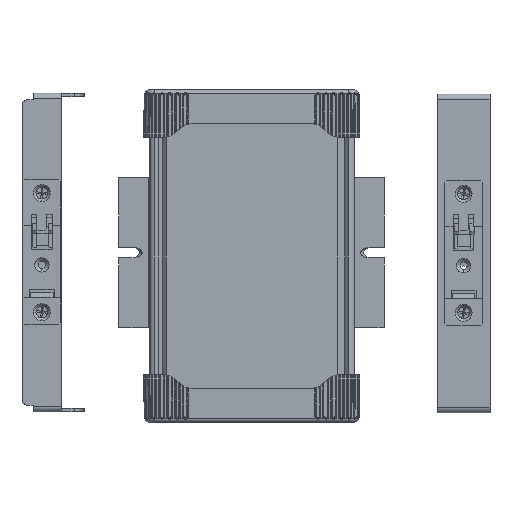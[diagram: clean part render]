
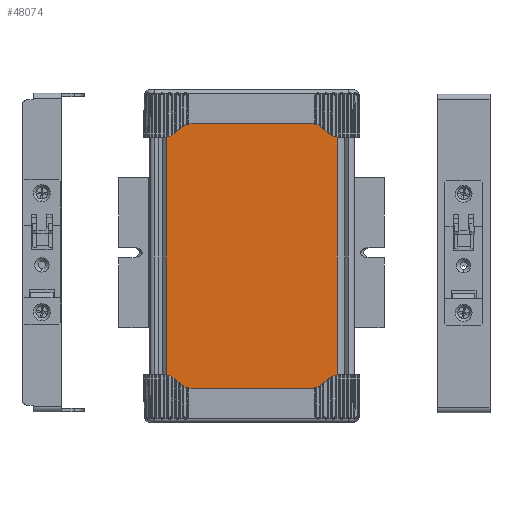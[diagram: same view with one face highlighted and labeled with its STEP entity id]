
A CAD part, front view. The second image highlights one B-rep face of the part: STEP entity #48074.
In plain terms, the highlighted planar face has unit normal (0, -1, 0).
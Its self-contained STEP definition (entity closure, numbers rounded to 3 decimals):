
#1986 = CARTESIAN_POINT ( 'NONE',  ( -45.086, -15.035, -80. ) ) ;
#4655 = CARTESIAN_POINT ( 'NONE',  ( -45.086, -15.035, 80. ) ) ;
#4933 = ORIENTED_EDGE ( 'NONE', *, *, #42259, .T. ) ;
#5044 = EDGE_CURVE ( 'NONE', #10767, #31939, #47936, .T. ) ;
#5281 = VECTOR ( 'NONE', #17756, 1000. ) ;
#6035 = CARTESIAN_POINT ( 'NONE',  ( -45.086, -15.035, 80. ) ) ;
#8228 = VERTEX_POINT ( 'NONE', #8752 ) ;
#8752 = CARTESIAN_POINT ( 'NONE',  ( -45.086, -15.035, -80. ) ) ;
#10767 = VERTEX_POINT ( 'NONE', #28369 ) ;
#11047 = CARTESIAN_POINT ( 'NONE',  ( -45.086, -15.035, 80. ) ) ;
#11666 = VECTOR ( 'NONE', #64001, 1000. ) ;
#12055 = CARTESIAN_POINT ( 'NONE',  ( -45.086, -15.035, 80. ) ) ;
#15801 = ORIENTED_EDGE ( 'NONE', *, *, #65127, .F. ) ;
#17756 = DIRECTION ( 'NONE',  ( 1., 0., 0. ) ) ;
#17801 = VECTOR ( 'NONE', #70423, 1000. ) ;
#18630 = CARTESIAN_POINT ( 'NONE',  ( 45.331, -15.035, -80. ) ) ;
#21397 = EDGE_CURVE ( 'NONE', #8228, #31939, #61775, .T. ) ;
#28369 = CARTESIAN_POINT ( 'NONE',  ( 45.331, -15.035, 80. ) ) ;
#31939 = VERTEX_POINT ( 'NONE', #18630 ) ;
#33418 = VERTEX_POINT ( 'NONE', #12055 ) ;
#36000 = LINE ( 'NONE', #11047, #11666 ) ;
#38561 = VECTOR ( 'NONE', #41407, 1000. ) ;
#41407 = DIRECTION ( 'NONE',  ( 1., 0., 0. ) ) ;
#42259 = EDGE_CURVE ( 'NONE', #33418, #8228, #36000, .T. ) ;
#44836 = FACE_OUTER_BOUND ( 'NONE', #54470, .T. ) ;
#47140 = ORIENTED_EDGE ( 'NONE', *, *, #5044, .F. ) ;
#47936 = LINE ( 'NONE', #53824, #17801 ) ;
#48074 = ADVANCED_FACE ( 'NONE', ( #44836 ), #54457, .F. ) ;
#48917 = DIRECTION ( 'NONE',  ( 0., 1., 0. ) ) ;
#53446 = ORIENTED_EDGE ( 'NONE', *, *, #21397, .T. ) ;
#53824 = CARTESIAN_POINT ( 'NONE',  ( 45.331, -15.035, 80. ) ) ;
#54457 = PLANE ( 'NONE',  #56334 ) ;
#54470 = EDGE_LOOP ( 'NONE', ( #53446, #47140, #15801, #4933 ) ) ;
#55554 = DIRECTION ( 'NONE',  ( 0., 0., 1. ) ) ;
#56334 = AXIS2_PLACEMENT_3D ( 'NONE', #4655, #48917, #55554 ) ;
#61775 = LINE ( 'NONE', #1986, #38561 ) ;
#62801 = LINE ( 'NONE', #6035, #5281 ) ;
#64001 = DIRECTION ( 'NONE',  ( 0., 0., -1. ) ) ;
#65127 = EDGE_CURVE ( 'NONE', #33418, #10767, #62801, .T. ) ;
#70423 = DIRECTION ( 'NONE',  ( 0., 0., -1. ) ) ;
